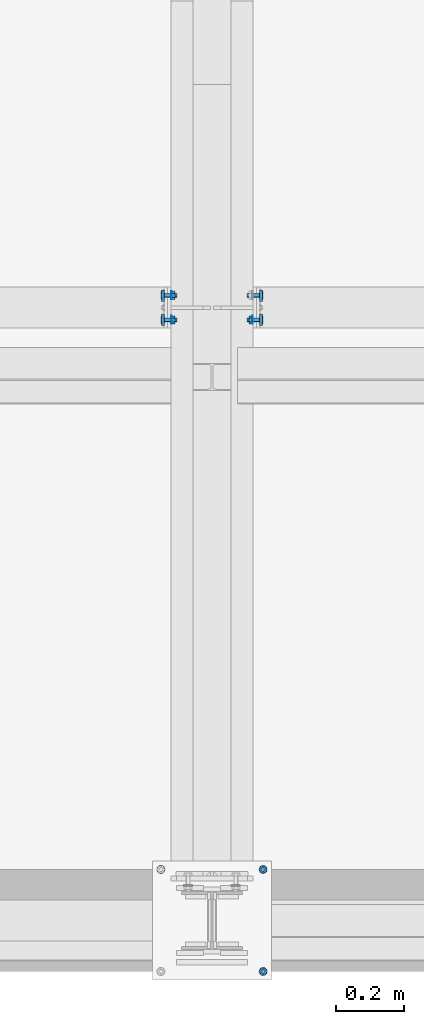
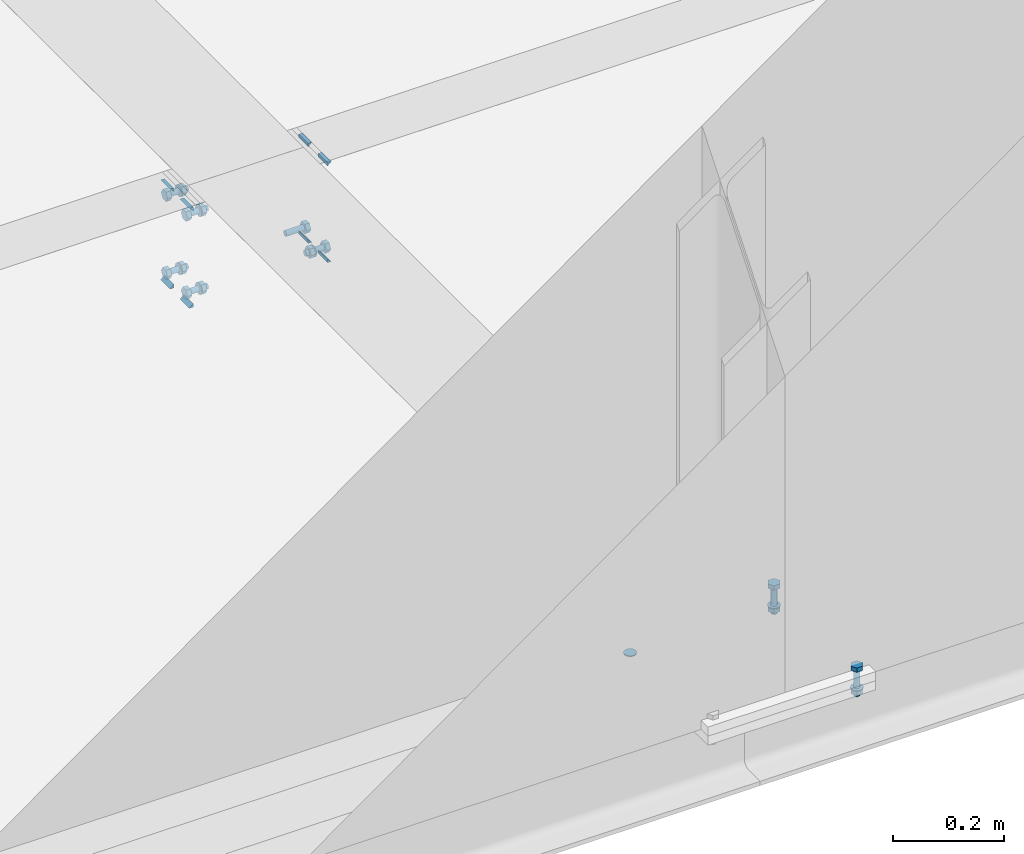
# One storey, part 37 of 66: 31 mechanical fasteners, 16 fasteners.
"""IFC4 building model written with IfcOpenShell, lengths in metres."""

from ifc_helpers import new_model, si_unit, frame, origin_with_axes, place, context, project, spatial, polyline, outline, extrude, type_object, element, save


model = new_model("IFC4")

# Units and contexts
model_context = context("Model", 3, precision=1e-05, world=origin_with_axes())
ifc_project = project(units=[si_unit("LENGTHUNIT", "METRE"), si_unit("AREAUNIT", "SQUARE_METRE"), si_unit("VOLUMEUNIT", "CUBIC_METRE"), si_unit("MASSUNIT", "GRAM", prefix="KILO"), si_unit("TIMEUNIT", "SECOND"), si_unit("PLANEANGLEUNIT", "RADIAN"), si_unit("SOLIDANGLEUNIT", "STERADIAN"), si_unit("THERMODYNAMICTEMPERATUREUNIT", "DEGREE_CELSIUS")], contexts=[model_context])

# Site, building, storey
placement_1 = place(None, origin_with_axes())
site = spatial("IfcSite", under=ifc_project, at=placement_1, Name="Italia", CompositionType="ELEMENT")
building = spatial("IfcBuilding", under=site, at=placement_1, Name="Uffici", CompositionType="ELEMENT")
storey_placement = place(None, frame((0.0, 0.0, 3.299999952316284), z_axis=(0.0, 0.0, 1.0), x_axis=(1.0, 0.0, 0.0)))
storey = spatial("IfcBuildingStorey", under=building, at=storey_placement, Name="Storey 1", CompositionType="ELEMENT", Elevation=3.299999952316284)

# Fasteners
fastener_type_1 = type_object("IfcFastenerType", Name="Collegamento -003_-002", PredefinedType="WELD")
placement_2 = place(placement_1, origin_with_axes())
fastener_1_placement = place(placement_2, origin_with_axes())
element("IfcFastener", 1, at=fastener_1_placement, inside=storey, type_object=fastener_type_1, Name="Collegamento -003_-002", context=model_context, shape_type="SweptSolid", body=[
    extrude(outline(polyline([(0.0, 0.0), (-0.00817347, 0.00792813), (0.0, 0.00792813), (0.0, 0.0)])), frame((6.61505, 1.77862, 3.28232), z_axis=(0.0, -1.0, 0.0), x_axis=(1.0, 0.0, 0.0)), (0.0, 0.0, 1.0), 0.0339999),
])
fastener_type_2 = type_object("IfcFastenerType", Name="Collegamento -003_-002", PredefinedType="WELD")
fastener_2_placement = place(placement_2, origin_with_axes())
element("IfcFastener", 2, at=fastener_2_placement, inside=storey, type_object=fastener_type_2, Name="Collegamento -003_-002", context=model_context, shape_type="SweptSolid", body=[
    extrude(outline(polyline([(0.0, 0.0), (0.00817347, -0.00792813), (0.0, -0.00792813), (0.0, 0.0)])), frame((6.61505, 1.74462, 3.07768), z_axis=(0.0, 1.0, 0.0), x_axis=(-1.0, 0.0, 0.0)), (0.0, 0.0, 1.0), 0.0339999),
])
fastener_type_3 = type_object("IfcFastenerType", Name="Collegamento -003_-002", PredefinedType="WELD")
fastener_3_placement = place(placement_2, origin_with_axes())
element("IfcFastener", 3, at=fastener_3_placement, inside=storey, type_object=fastener_type_3, Name="Collegamento -003_-002", context=model_context, shape_type="SweptSolid", body=[
    extrude(outline(polyline([(0.0, 0.0), (0.00817347, -0.00792813), (0.0, -0.00792813), (0.0, 0.0)])), frame((6.61505, 1.81472, 3.07768), z_axis=(0.0, 1.0, 0.0), x_axis=(-1.0, 0.0, 0.0)), (0.0, 0.0, 1.0), 0.0339999),
])
fastener_type_4 = type_object("IfcFastenerType", Name="Collegamento -003_-002", PredefinedType="WELD")
fastener_4_placement = place(placement_2, origin_with_axes())
element("IfcFastener", 4, at=fastener_4_placement, inside=storey, type_object=fastener_type_4, Name="Collegamento -003_-002", context=model_context, shape_type="SweptSolid", body=[
    extrude(outline(polyline([(0.0, 0.0), (-0.00817347, 0.00792813), (0.0, 0.00792813), (0.0, 0.0)])), frame((6.61505, 1.84872, 3.28232), z_axis=(0.0, -1.0, 0.0), x_axis=(1.0, 0.0, 0.0)), (0.0, 0.0, 1.0), 0.0339999),
])
fastener_type_5 = type_object("IfcFastenerType", Name="Collegamento -003_-002", PredefinedType="WELD")
fastener_5_placement = place(placement_2, origin_with_axes())
element("IfcFastener", 5, at=fastener_5_placement, inside=storey, type_object=fastener_type_5, Name="Collegamento -003_-002", context=model_context, shape_type="SweptSolid", body=[
    extrude(outline(polyline([(0.0, 0.0), (-0.00817347, 0.00792813), (0.0, 0.00792813), (0.0, 0.0)])), frame((6.61505, 1.77862, 3.28232), z_axis=(0.0, -1.0, 0.0), x_axis=(1.0, 0.0, 0.0)), (0.0, 0.0, 1.0), 0.0339999),
])
fastener_type_6 = type_object("IfcFastenerType", Name="Collegamento -003_-002", PredefinedType="WELD")
fastener_6_placement = place(placement_2, origin_with_axes())
element("IfcFastener", 6, at=fastener_6_placement, inside=storey, type_object=fastener_type_6, Name="Collegamento -003_-002", context=model_context, shape_type="SweptSolid", body=[
    extrude(outline(polyline([(0.0, 0.0), (0.00817347, -0.00792813), (0.0, -0.00792813), (0.0, 0.0)])), frame((6.61505, 1.74462, 3.07768), z_axis=(0.0, 1.0, 0.0), x_axis=(-1.0, 0.0, 0.0)), (0.0, 0.0, 1.0), 0.0339999),
])
fastener_type_7 = type_object("IfcFastenerType", Name="Collegamento -003_-002", PredefinedType="WELD")
fastener_7_placement = place(placement_2, origin_with_axes())
element("IfcFastener", 7, at=fastener_7_placement, inside=storey, type_object=fastener_type_7, Name="Collegamento -003_-002", context=model_context, shape_type="SweptSolid", body=[
    extrude(outline(polyline([(0.0, 0.0), (0.00817347, -0.00792813), (0.0, -0.00792813), (0.0, 0.0)])), frame((6.61505, 1.81472, 3.07768), z_axis=(0.0, 1.0, 0.0), x_axis=(-1.0, 0.0, 0.0)), (0.0, 0.0, 1.0), 0.0339999),
])
fastener_type_8 = type_object("IfcFastenerType", Name="Collegamento -003_-002", PredefinedType="WELD")
fastener_8_placement = place(placement_2, origin_with_axes())
element("IfcFastener", 8, at=fastener_8_placement, inside=storey, type_object=fastener_type_8, Name="Collegamento -003_-002", context=model_context, shape_type="SweptSolid", body=[
    extrude(outline(polyline([(0.0, 0.0), (-0.00817347, 0.00792813), (0.0, 0.00792813), (0.0, 0.0)])), frame((6.61505, 1.84872, 3.28232), z_axis=(0.0, -1.0, 0.0), x_axis=(1.0, 0.0, 0.0)), (0.0, 0.0, 1.0), 0.0339999),
])

# Mechanical fasteners
mechanical_fastener_type_1 = type_object("IfcMechanicalFastenerType", Name="Collegamento -003_-002", PredefinedType="BOLT")
mechanical_fastener_1_placement = place(placement_2, origin_with_axes())
element("IfcMechanicalFastener", 9, at=mechanical_fastener_1_placement, inside=storey, type_object=mechanical_fastener_type_1, Name="Collegamento -003_-002", NominalDiameter=0.0119999, context=model_context, shape_type="SweptSolid", body=[
    extrude(outline(polyline([(0.0, 0.0), (-0.0120001, 0.0), (-0.018, 0.0103924), (-0.0120001, 0.0207846), (0.0, 0.0207846), (0.00599992, 0.0103924), (0.0, 0.0)])), frame((6.615, 1.82667, 3.08361), z_axis=(-1.0, 0.0, 0.0), x_axis=(0.0, -1.0, 0.0)), (0.0, 0.0, 1.0), 0.00960016),
])
mechanical_fastener_type_2 = type_object("IfcMechanicalFastenerType", Name="Collegamento -003_-002", PredefinedType="BOLT")
mechanical_fastener_2_placement = place(placement_2, origin_with_axes())
element("IfcMechanicalFastener", 10, at=mechanical_fastener_2_placement, inside=storey, type_object=mechanical_fastener_type_2, Name="Collegamento -003_-002", NominalDiameter=0.012, context=model_context, shape_type="SweptSolid", body=[
    extrude(outline(polyline([(0.0, 0.0), (-0.000204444, -0.00155282), (-0.000803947, -0.00300002), (-0.00175738, -0.00424266), (-0.00300002, -0.00519609), (-0.0044471, -0.00579548), (-0.00600004, -0.00600004), (-0.00755298, -0.00579548), (-0.00900006, -0.00519609), (-0.0102427, -0.00424266), (-0.0111961, -0.00300002), (-0.0117956, -0.00155282), (-0.0120001, 0.0), (-0.0117956, 0.00155282), (-0.0111961, 0.00300002), (-0.0102427, 0.00424266), (-0.00900006, 0.00519609), (-0.00755298, 0.00579548), (-0.00600004, 0.00600004), (-0.0044471, 0.00579548), (-0.00300002, 0.00519609), (-0.00175738, 0.00424266), (-0.000803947, 0.00300002), (-0.000204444, 0.00155282), (0.0, 0.0)])), frame((6.653, 1.82667, 3.094), z_axis=(-1.0, 0.0, 0.0), x_axis=(0.0, -1.0, 0.0)), (0.0, 0.0, 1.0), 0.0380001),
])
mechanical_fastener_type_3 = type_object("IfcMechanicalFastenerType", Name="Collegamento -003_-002", PredefinedType="BOLT")
mechanical_fastener_3_placement = place(placement_2, origin_with_axes())
element("IfcMechanicalFastener", 11, at=mechanical_fastener_3_placement, inside=storey, type_object=mechanical_fastener_type_3, Name="Collegamento -003_-002", NominalDiameter=0.0119999, context=model_context, shape_type="SweptSolid", body=[
    extrude(outline(polyline([(0.0, 0.0), (-0.0120001, 0.0), (-0.018, 0.0103924), (-0.0120001, 0.0207846), (0.0, 0.0207846), (0.00599992, 0.0103924), (0.0, 0.0)])), frame((6.6466, 1.82667, 3.08361), z_axis=(-1.0, 0.0, 0.0), x_axis=(0.0, -1.0, 0.0)), (0.0, 0.0, 1.0), 0.00960016),
])
mechanical_fastener_type_4 = type_object("IfcMechanicalFastenerType", Name="Collegamento -003_-002", PredefinedType="BOLT")
mechanical_fastener_4_placement = place(placement_2, origin_with_axes())
element("IfcMechanicalFastener", 12, at=mechanical_fastener_4_placement, inside=storey, type_object=mechanical_fastener_type_4, Name="Collegamento -003_-002", NominalDiameter=0.024, context=model_context, shape_type="SweptSolid", body=[
    extrude(outline(polyline([(0.0, 0.0), (-0.000408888, -0.00310588), (-0.00160766, -0.00600004), (-0.00351465, -0.00848532), (-0.00599992, -0.0103922), (-0.00889409, -0.0115912), (-0.012, -0.0120001), (-0.0151058, -0.0115912), (-0.018, -0.0103922), (-0.0204853, -0.00848532), (-0.0223923, -0.00600004), (-0.023591, -0.00310588), (-0.0239999, 0.0), (-0.023591, 0.00310588), (-0.0223923, 0.00600004), (-0.0204853, 0.00848532), (-0.018, 0.0103922), (-0.0151058, 0.0115912), (-0.012, 0.0120001), (-0.00889409, 0.0115912), (-0.00599992, 0.0103922), (-0.00351465, 0.00848532), (-0.00160766, 0.00600004), (-0.000408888, 0.00310588), (0.0, 0.0)])), frame((6.637, 1.82067, 3.094), z_axis=(-1.0, 0.0, 0.0), x_axis=(0.0, -1.0, 0.0)), (0.0, 0.0, 1.0), 0.00199986),
])
mechanical_fastener_type_5 = type_object("IfcMechanicalFastenerType", Name="Collegamento -003_-002", PredefinedType="BOLT")
mechanical_fastener_5_placement = place(placement_2, origin_with_axes())
element("IfcMechanicalFastener", 13, at=mechanical_fastener_5_placement, inside=storey, type_object=mechanical_fastener_type_5, Name="Collegamento -003_-002", NominalDiameter=0.0119999, context=model_context, shape_type="SweptSolid", body=[
    extrude(outline(polyline([(0.0, 0.0), (-0.0120001, 0.0), (-0.018, 0.0103924), (-0.0120001, 0.0207846), (0.0, 0.0207846), (0.00599992, 0.0103924), (0.0, 0.0)])), frame((6.615, 1.75467, 3.08361), z_axis=(-1.0, 0.0, 0.0), x_axis=(0.0, -1.0, 0.0)), (0.0, 0.0, 1.0), 0.00960016),
])
mechanical_fastener_type_6 = type_object("IfcMechanicalFastenerType", Name="Collegamento -003_-002", PredefinedType="BOLT")
mechanical_fastener_6_placement = place(placement_2, origin_with_axes())
element("IfcMechanicalFastener", 14, at=mechanical_fastener_6_placement, inside=storey, type_object=mechanical_fastener_type_6, Name="Collegamento -003_-002", NominalDiameter=0.012, context=model_context, shape_type="SweptSolid", body=[
    extrude(outline(polyline([(0.0, 0.0), (-0.000204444, -0.00155282), (-0.000803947, -0.00300002), (-0.00175738, -0.00424266), (-0.00300002, -0.00519609), (-0.0044471, -0.00579548), (-0.00600004, -0.00600004), (-0.00755298, -0.00579548), (-0.00900006, -0.00519609), (-0.0102427, -0.00424266), (-0.0111961, -0.00300002), (-0.0117956, -0.00155282), (-0.0120001, 0.0), (-0.0117956, 0.00155282), (-0.0111961, 0.00300002), (-0.0102427, 0.00424266), (-0.00900006, 0.00519609), (-0.00755298, 0.00579548), (-0.00600004, 0.00600004), (-0.0044471, 0.00579548), (-0.00300002, 0.00519609), (-0.00175738, 0.00424266), (-0.000803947, 0.00300002), (-0.000204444, 0.00155282), (0.0, 0.0)])), frame((6.653, 1.75467, 3.094), z_axis=(-1.0, 0.0, 0.0), x_axis=(0.0, -1.0, 0.0)), (0.0, 0.0, 1.0), 0.0380001),
])
mechanical_fastener_type_7 = type_object("IfcMechanicalFastenerType", Name="Collegamento -003_-002", PredefinedType="BOLT")
mechanical_fastener_7_placement = place(placement_2, origin_with_axes())
element("IfcMechanicalFastener", 15, at=mechanical_fastener_7_placement, inside=storey, type_object=mechanical_fastener_type_7, Name="Collegamento -003_-002", NominalDiameter=0.0119999, context=model_context, shape_type="SweptSolid", body=[
    extrude(outline(polyline([(0.0, 0.0), (-0.0120001, 0.0), (-0.018, 0.0103924), (-0.0120001, 0.0207846), (0.0, 0.0207846), (0.00599992, 0.0103924), (0.0, 0.0)])), frame((6.6466, 1.75467, 3.08361), z_axis=(-1.0, 0.0, 0.0), x_axis=(0.0, -1.0, 0.0)), (0.0, 0.0, 1.0), 0.00960016),
])
mechanical_fastener_type_8 = type_object("IfcMechanicalFastenerType", Name="Collegamento -003_-002", PredefinedType="BOLT")
mechanical_fastener_8_placement = place(placement_2, origin_with_axes())
element("IfcMechanicalFastener", 16, at=mechanical_fastener_8_placement, inside=storey, type_object=mechanical_fastener_type_8, Name="Collegamento -003_-002", NominalDiameter=0.024, context=model_context, shape_type="SweptSolid", body=[
    extrude(outline(polyline([(0.0, 0.0), (-0.000408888, -0.00310588), (-0.00160766, -0.00600004), (-0.00351465, -0.00848532), (-0.00599992, -0.0103922), (-0.00889409, -0.0115912), (-0.012, -0.0120001), (-0.0151058, -0.0115912), (-0.018, -0.0103922), (-0.0204853, -0.00848532), (-0.0223923, -0.00600004), (-0.023591, -0.00310588), (-0.0239999, 0.0), (-0.023591, 0.00310588), (-0.0223923, 0.00600004), (-0.0204853, 0.00848532), (-0.018, 0.0103922), (-0.0151058, 0.0115912), (-0.012, 0.0120001), (-0.00889409, 0.0115912), (-0.00599992, 0.0103922), (-0.00351465, 0.00848532), (-0.00160766, 0.00600004), (-0.000408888, 0.00310588), (0.0, 0.0)])), frame((6.637, 1.74867, 3.094), z_axis=(-1.0, 0.0, 0.0), x_axis=(0.0, -1.0, 0.0)), (0.0, 0.0, 1.0), 0.00199986),
])
mechanical_fastener_type_9 = type_object("IfcMechanicalFastenerType", Name="Collegamento -003_-002", PredefinedType="BOLT")
mechanical_fastener_9_placement = place(placement_2, origin_with_axes())
element("IfcMechanicalFastener", 17, at=mechanical_fastener_9_placement, inside=storey, type_object=mechanical_fastener_type_9, Name="Collegamento -003_-002", NominalDiameter=0.0119999, context=model_context, shape_type="SweptSolid", body=[
    extrude(outline(polyline([(0.0, 0.0), (-0.0120001, 0.0), (-0.018, 0.0103922), (-0.0120001, 0.0207846), (0.0, 0.0207846), (0.00599992, 0.0103922), (0.0, 0.0)])), frame((6.615, 1.82667, 3.25561), z_axis=(-1.0, 0.0, 0.0), x_axis=(0.0, -1.0, 0.0)), (0.0, 0.0, 1.0), 0.00960016),
])
mechanical_fastener_type_10 = type_object("IfcMechanicalFastenerType", Name="Collegamento -003_-002", PredefinedType="BOLT")
mechanical_fastener_10_placement = place(placement_2, origin_with_axes())
element("IfcMechanicalFastener", 18, at=mechanical_fastener_10_placement, inside=storey, type_object=mechanical_fastener_type_10, Name="Collegamento -003_-002", NominalDiameter=0.012, context=model_context, shape_type="SweptSolid", body=[
    extrude(outline(polyline([(0.0, 0.0), (-0.000204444, -0.00155282), (-0.000803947, -0.00300002), (-0.00175738, -0.00424266), (-0.00300002, -0.00519609), (-0.0044471, -0.00579548), (-0.00600004, -0.00600004), (-0.00755298, -0.00579548), (-0.00900006, -0.00519609), (-0.0102427, -0.00424266), (-0.0111961, -0.00300002), (-0.0117956, -0.00155282), (-0.0120001, 0.0), (-0.0117956, 0.00155282), (-0.0111961, 0.00300002), (-0.0102427, 0.00424266), (-0.00900006, 0.00519609), (-0.00755298, 0.00579548), (-0.00600004, 0.00600004), (-0.0044471, 0.00579548), (-0.00300002, 0.00519609), (-0.00175738, 0.00424266), (-0.000803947, 0.00300002), (-0.000204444, 0.00155282), (0.0, 0.0)])), frame((6.653, 1.82667, 3.266), z_axis=(-1.0, 0.0, 0.0), x_axis=(0.0, -1.0, 0.0)), (0.0, 0.0, 1.0), 0.0380001),
])
mechanical_fastener_type_11 = type_object("IfcMechanicalFastenerType", Name="Collegamento -003_-002", PredefinedType="BOLT")
mechanical_fastener_11_placement = place(placement_2, origin_with_axes())
element("IfcMechanicalFastener", 19, at=mechanical_fastener_11_placement, inside=storey, type_object=mechanical_fastener_type_11, Name="Collegamento -003_-002", NominalDiameter=0.0119999, context=model_context, shape_type="SweptSolid", body=[
    extrude(outline(polyline([(0.0, 0.0), (-0.0120001, 0.0), (-0.018, 0.0103922), (-0.0120001, 0.0207846), (0.0, 0.0207846), (0.00599992, 0.0103922), (0.0, 0.0)])), frame((6.6466, 1.82667, 3.25561), z_axis=(-1.0, 0.0, 0.0), x_axis=(0.0, -1.0, 0.0)), (0.0, 0.0, 1.0), 0.00960016),
])
mechanical_fastener_type_12 = type_object("IfcMechanicalFastenerType", Name="Collegamento -003_-002", PredefinedType="BOLT")
mechanical_fastener_12_placement = place(placement_2, origin_with_axes())
element("IfcMechanicalFastener", 20, at=mechanical_fastener_12_placement, inside=storey, type_object=mechanical_fastener_type_12, Name="Collegamento -003_-002", NominalDiameter=0.024, context=model_context, shape_type="SweptSolid", body=[
    extrude(outline(polyline([(0.0, 0.0), (-0.000408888, -0.00310588), (-0.00160766, -0.00600004), (-0.00351465, -0.00848532), (-0.00599992, -0.0103922), (-0.00889409, -0.0115912), (-0.012, -0.0120001), (-0.0151058, -0.0115912), (-0.018, -0.0103922), (-0.0204853, -0.00848532), (-0.0223923, -0.00600004), (-0.023591, -0.00310588), (-0.0239999, 0.0), (-0.023591, 0.00310588), (-0.0223923, 0.00600004), (-0.0204853, 0.00848532), (-0.018, 0.0103922), (-0.0151058, 0.0115912), (-0.012, 0.0120001), (-0.00889409, 0.0115912), (-0.00599992, 0.0103922), (-0.00351465, 0.00848532), (-0.00160766, 0.00600004), (-0.000408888, 0.00310588), (0.0, 0.0)])), frame((6.637, 1.82067, 3.266), z_axis=(-1.0, 0.0, 0.0), x_axis=(0.0, -1.0, 0.0)), (0.0, 0.0, 1.0), 0.00199986),
])
mechanical_fastener_type_13 = type_object("IfcMechanicalFastenerType", Name="Collegamento -003_-002", PredefinedType="BOLT")
mechanical_fastener_13_placement = place(placement_2, origin_with_axes())
element("IfcMechanicalFastener", 21, at=mechanical_fastener_13_placement, inside=storey, type_object=mechanical_fastener_type_13, Name="Collegamento -003_-002", NominalDiameter=0.0119999, context=model_context, shape_type="SweptSolid", body=[
    extrude(outline(polyline([(0.0, 0.0), (-0.0120001, 0.0), (-0.018, 0.0103922), (-0.0120001, 0.0207846), (0.0, 0.0207846), (0.00599992, 0.0103922), (0.0, 0.0)])), frame((6.615, 1.75467, 3.25561), z_axis=(-1.0, 0.0, 0.0), x_axis=(0.0, -1.0, 0.0)), (0.0, 0.0, 1.0), 0.00960016),
])
mechanical_fastener_type_14 = type_object("IfcMechanicalFastenerType", Name="Collegamento -003_-002", PredefinedType="BOLT")
mechanical_fastener_14_placement = place(placement_2, origin_with_axes())
element("IfcMechanicalFastener", 22, at=mechanical_fastener_14_placement, inside=storey, type_object=mechanical_fastener_type_14, Name="Collegamento -003_-002", NominalDiameter=0.012, context=model_context, shape_type="SweptSolid", body=[
    extrude(outline(polyline([(0.0, 0.0), (-0.000204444, -0.00155282), (-0.000803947, -0.00300002), (-0.00175738, -0.00424266), (-0.00300002, -0.00519609), (-0.0044471, -0.00579548), (-0.00600004, -0.00600004), (-0.00755298, -0.00579548), (-0.00900006, -0.00519609), (-0.0102427, -0.00424266), (-0.0111961, -0.00300002), (-0.0117956, -0.00155282), (-0.0120001, 0.0), (-0.0117956, 0.00155282), (-0.0111961, 0.00300002), (-0.0102427, 0.00424266), (-0.00900006, 0.00519609), (-0.00755298, 0.00579548), (-0.00600004, 0.00600004), (-0.0044471, 0.00579548), (-0.00300002, 0.00519609), (-0.00175738, 0.00424266), (-0.000803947, 0.00300002), (-0.000204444, 0.00155282), (0.0, 0.0)])), frame((6.653, 1.75467, 3.266), z_axis=(-1.0, 0.0, 0.0), x_axis=(0.0, -1.0, 0.0)), (0.0, 0.0, 1.0), 0.0380001),
])
mechanical_fastener_type_15 = type_object("IfcMechanicalFastenerType", Name="Collegamento -003_-002", PredefinedType="BOLT")
mechanical_fastener_15_placement = place(placement_2, origin_with_axes())
element("IfcMechanicalFastener", 23, at=mechanical_fastener_15_placement, inside=storey, type_object=mechanical_fastener_type_15, Name="Collegamento -003_-002", NominalDiameter=0.0119999, context=model_context, shape_type="SweptSolid", body=[
    extrude(outline(polyline([(0.0, 0.0), (-0.0120001, 0.0), (-0.018, 0.0103922), (-0.0120001, 0.0207846), (0.0, 0.0207846), (0.00599992, 0.0103922), (0.0, 0.0)])), frame((6.6466, 1.75467, 3.25561), z_axis=(-1.0, 0.0, 0.0), x_axis=(0.0, -1.0, 0.0)), (0.0, 0.0, 1.0), 0.00960016),
])
mechanical_fastener_type_16 = type_object("IfcMechanicalFastenerType", Name="Collegamento -003_-002", PredefinedType="BOLT")
mechanical_fastener_16_placement = place(placement_2, origin_with_axes())
element("IfcMechanicalFastener", 24, at=mechanical_fastener_16_placement, inside=storey, type_object=mechanical_fastener_type_16, Name="Collegamento -003_-002", NominalDiameter=0.024, context=model_context, shape_type="SweptSolid", body=[
    extrude(outline(polyline([(0.0, 0.0), (-0.000408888, -0.00310588), (-0.00160766, -0.00600004), (-0.00351465, -0.00848532), (-0.00599992, -0.0103922), (-0.00889409, -0.0115912), (-0.012, -0.0120001), (-0.0151058, -0.0115912), (-0.018, -0.0103922), (-0.0204853, -0.00848532), (-0.0223923, -0.00600004), (-0.023591, -0.00310588), (-0.0239999, 0.0), (-0.023591, 0.00310588), (-0.0223923, 0.00600004), (-0.0204853, 0.00848532), (-0.018, 0.0103922), (-0.0151058, 0.0115912), (-0.012, 0.0120001), (-0.00889409, 0.0115912), (-0.00599992, 0.0103922), (-0.00351465, 0.00848532), (-0.00160766, 0.00600004), (-0.000408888, 0.00310588), (0.0, 0.0)])), frame((6.637, 1.74867, 3.266), z_axis=(-1.0, 0.0, 0.0), x_axis=(0.0, -1.0, 0.0)), (0.0, 0.0, 1.0), 0.00199986),
])

# Fasteners
fastener_type_9 = type_object("IfcFastenerType", Name="Collegamento -003_-004", PredefinedType="WELD")
fastener_9_placement = place(placement_2, origin_with_axes())
element("IfcFastener", 25, at=fastener_9_placement, inside=storey, type_object=fastener_type_9, Name="Collegamento -003_-004", context=model_context, shape_type="SweptSolid", body=[
    extrude(outline(polyline([(0.0, 0.0), (-0.00817347, 0.00792813), (0.0, 0.00792813), (0.0, 0.0)])), frame((6.89495, 1.74462, 3.28232), z_axis=(0.0, 1.0, 0.0), x_axis=(-1.0, 0.0, 0.0)), (0.0, 0.0, 1.0), 0.0339999),
])
fastener_type_10 = type_object("IfcFastenerType", Name="Collegamento -003_-004", PredefinedType="WELD")
fastener_10_placement = place(placement_2, origin_with_axes())
element("IfcFastener", 26, at=fastener_10_placement, inside=storey, type_object=fastener_type_10, Name="Collegamento -003_-004", context=model_context, shape_type="SweptSolid", body=[
    extrude(outline(polyline([(0.0, 0.0), (0.00817347, -0.00792813), (0.0, -0.00792813), (0.0, 0.0)])), frame((6.89495, 1.77862, 3.07768), z_axis=(0.0, -1.0, 0.0), x_axis=(1.0, 0.0, 0.0)), (0.0, 0.0, 1.0), 0.0339999),
])
fastener_type_11 = type_object("IfcFastenerType", Name="Collegamento -003_-004", PredefinedType="WELD")
fastener_11_placement = place(placement_2, origin_with_axes())
element("IfcFastener", 27, at=fastener_11_placement, inside=storey, type_object=fastener_type_11, Name="Collegamento -003_-004", context=model_context, shape_type="SweptSolid", body=[
    extrude(outline(polyline([(0.0, 0.0), (0.00817347, -0.00792813), (0.0, -0.00792813), (0.0, 0.0)])), frame((6.89495, 1.84872, 3.07768), z_axis=(0.0, -1.0, 0.0), x_axis=(1.0, 0.0, 0.0)), (0.0, 0.0, 1.0), 0.0339999),
])
fastener_type_12 = type_object("IfcFastenerType", Name="Collegamento -003_-004", PredefinedType="WELD")
fastener_12_placement = place(placement_2, origin_with_axes())
element("IfcFastener", 28, at=fastener_12_placement, inside=storey, type_object=fastener_type_12, Name="Collegamento -003_-004", context=model_context, shape_type="SweptSolid", body=[
    extrude(outline(polyline([(0.0, 0.0), (-0.00817347, 0.00792813), (0.0, 0.00792813), (0.0, 0.0)])), frame((6.89495, 1.81472, 3.28232), z_axis=(0.0, 1.0, 0.0), x_axis=(-1.0, 0.0, 0.0)), (0.0, 0.0, 1.0), 0.0339999),
])
fastener_type_13 = type_object("IfcFastenerType", Name="Collegamento -003_-004", PredefinedType="WELD")
fastener_13_placement = place(placement_2, origin_with_axes())
element("IfcFastener", 29, at=fastener_13_placement, inside=storey, type_object=fastener_type_13, Name="Collegamento -003_-004", context=model_context, shape_type="SweptSolid", body=[
    extrude(outline(polyline([(0.0, 0.0), (-0.00817347, 0.00792813), (0.0, 0.00792813), (0.0, 0.0)])), frame((6.89495, 1.74462, 3.28232), z_axis=(0.0, 1.0, 0.0), x_axis=(-1.0, 0.0, 0.0)), (0.0, 0.0, 1.0), 0.0339999),
])
fastener_type_14 = type_object("IfcFastenerType", Name="Collegamento -003_-004", PredefinedType="WELD")
fastener_14_placement = place(placement_2, origin_with_axes())
element("IfcFastener", 30, at=fastener_14_placement, inside=storey, type_object=fastener_type_14, Name="Collegamento -003_-004", context=model_context, shape_type="SweptSolid", body=[
    extrude(outline(polyline([(0.0, 0.0), (0.00817347, -0.00792813), (0.0, -0.00792813), (0.0, 0.0)])), frame((6.89495, 1.77862, 3.07768), z_axis=(0.0, -1.0, 0.0), x_axis=(1.0, 0.0, 0.0)), (0.0, 0.0, 1.0), 0.0339999),
])
fastener_type_15 = type_object("IfcFastenerType", Name="Collegamento -003_-004", PredefinedType="WELD")
fastener_15_placement = place(placement_2, origin_with_axes())
element("IfcFastener", 31, at=fastener_15_placement, inside=storey, type_object=fastener_type_15, Name="Collegamento -003_-004", context=model_context, shape_type="SweptSolid", body=[
    extrude(outline(polyline([(0.0, 0.0), (0.00817347, -0.00792813), (0.0, -0.00792813), (0.0, 0.0)])), frame((6.89495, 1.84872, 3.07768), z_axis=(0.0, -1.0, 0.0), x_axis=(1.0, 0.0, 0.0)), (0.0, 0.0, 1.0), 0.0339999),
])
fastener_type_16 = type_object("IfcFastenerType", Name="Collegamento -003_-004", PredefinedType="WELD")
fastener_16_placement = place(placement_2, origin_with_axes())
element("IfcFastener", 32, at=fastener_16_placement, inside=storey, type_object=fastener_type_16, Name="Collegamento -003_-004", context=model_context, shape_type="SweptSolid", body=[
    extrude(outline(polyline([(0.0, 0.0), (-0.00817347, 0.00792813), (0.0, 0.00792813), (0.0, 0.0)])), frame((6.89495, 1.81472, 3.28232), z_axis=(0.0, 1.0, 0.0), x_axis=(-1.0, 0.0, 0.0)), (0.0, 0.0, 1.0), 0.0339999),
])

# Mechanical fasteners
mechanical_fastener_type_17 = type_object("IfcMechanicalFastenerType", Name="Collegamento -003_-004", PredefinedType="BOLT")
mechanical_fastener_17_placement = place(placement_2, origin_with_axes())
element("IfcMechanicalFastener", 33, at=mechanical_fastener_17_placement, inside=storey, type_object=mechanical_fastener_type_17, Name="Collegamento -003_-004", NominalDiameter=0.0119999, context=model_context, shape_type="SweptSolid", body=[
    extrude(outline(polyline([(0.0, 0.0), (-0.0120001, 0.0), (-0.018, 0.0103924), (-0.0120001, 0.0207846), (0.0, 0.0207846), (0.00599992, 0.0103924), (0.0, 0.0)])), frame((6.895, 1.76667, 3.08361), z_axis=(1.0, 0.0, 0.0), x_axis=(0.0, 1.0, 0.0)), (0.0, 0.0, 1.0), 0.00960016),
])
mechanical_fastener_type_18 = type_object("IfcMechanicalFastenerType", Name="Collegamento -003_-004", PredefinedType="BOLT")
mechanical_fastener_18_placement = place(placement_2, origin_with_axes())
element("IfcMechanicalFastener", 34, at=mechanical_fastener_18_placement, inside=storey, type_object=mechanical_fastener_type_18, Name="Collegamento -003_-004", NominalDiameter=0.012, context=model_context, shape_type="SweptSolid", body=[
    extrude(outline(polyline([(0.0, 0.0), (-0.000204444, -0.00155282), (-0.000803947, -0.00300002), (-0.00175738, -0.00424266), (-0.00300002, -0.00519609), (-0.0044471, -0.00579548), (-0.00600004, -0.00600004), (-0.00755298, -0.00579548), (-0.00900006, -0.00519609), (-0.0102427, -0.00424266), (-0.0111961, -0.00300002), (-0.0117956, -0.00155282), (-0.0120001, 0.0), (-0.0117956, 0.00155282), (-0.0111961, 0.00300002), (-0.0102427, 0.00424266), (-0.00900006, 0.00519609), (-0.00755298, 0.00579548), (-0.00600004, 0.00600004), (-0.0044471, 0.00579548), (-0.00300002, 0.00519609), (-0.00175738, 0.00424266), (-0.000803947, 0.00300002), (-0.000204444, 0.00155282), (0.0, 0.0)])), frame((6.857, 1.76667, 3.094), z_axis=(1.0, 0.0, 0.0), x_axis=(0.0, 1.0, 0.0)), (0.0, 0.0, 1.0), 0.0380001),
])
mechanical_fastener_type_19 = type_object("IfcMechanicalFastenerType", Name="Collegamento -003_-004", PredefinedType="BOLT")
mechanical_fastener_19_placement = place(placement_2, origin_with_axes())
element("IfcMechanicalFastener", 35, at=mechanical_fastener_19_placement, inside=storey, type_object=mechanical_fastener_type_19, Name="Collegamento -003_-004", NominalDiameter=0.0119999, context=model_context, shape_type="SweptSolid", body=[
    extrude(outline(polyline([(0.0, 0.0), (-0.0120001, 0.0), (-0.018, 0.0103924), (-0.0120001, 0.0207846), (0.0, 0.0207846), (0.00599992, 0.0103924), (0.0, 0.0)])), frame((6.8634, 1.76667, 3.08361), z_axis=(1.0, 0.0, 0.0), x_axis=(0.0, 1.0, 0.0)), (0.0, 0.0, 1.0), 0.00960016),
])
mechanical_fastener_type_20 = type_object("IfcMechanicalFastenerType", Name="Collegamento -003_-004", PredefinedType="BOLT")
mechanical_fastener_20_placement = place(placement_2, origin_with_axes())
element("IfcMechanicalFastener", 36, at=mechanical_fastener_20_placement, inside=storey, type_object=mechanical_fastener_type_20, Name="Collegamento -003_-004", NominalDiameter=0.024, context=model_context, shape_type="SweptSolid", body=[
    extrude(outline(polyline([(0.0, 0.0), (-0.000408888, -0.00310588), (-0.00160766, -0.00600004), (-0.00351465, -0.00848532), (-0.00599992, -0.0103922), (-0.00889409, -0.0115912), (-0.012, -0.0120001), (-0.0151058, -0.0115912), (-0.018, -0.0103922), (-0.0204853, -0.00848532), (-0.0223923, -0.00600004), (-0.023591, -0.00310588), (-0.0239999, 0.0), (-0.023591, 0.00310588), (-0.0223923, 0.00600004), (-0.0204853, 0.00848532), (-0.018, 0.0103922), (-0.0151058, 0.0115912), (-0.012, 0.0120001), (-0.00889409, 0.0115912), (-0.00599992, 0.0103922), (-0.00351465, 0.00848532), (-0.00160766, 0.00600004), (-0.000408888, 0.00310588), (0.0, 0.0)])), frame((6.873, 1.77267, 3.094), z_axis=(1.0, 0.0, 0.0), x_axis=(0.0, 1.0, 0.0)), (0.0, 0.0, 1.0), 0.00199986),
])
mechanical_fastener_type_21 = type_object("IfcMechanicalFastenerType", Name="Collegamento -003_-004", PredefinedType="BOLT")
mechanical_fastener_21_placement = place(placement_2, origin_with_axes())
element("IfcMechanicalFastener", 37, at=mechanical_fastener_21_placement, inside=storey, type_object=mechanical_fastener_type_21, Name="Collegamento -003_-004", NominalDiameter=0.0119999, context=model_context, shape_type="SweptSolid", body=[
    extrude(outline(polyline([(0.0, 0.0), (-0.0120001, 0.0), (-0.018, 0.0103924), (-0.0120001, 0.0207846), (0.0, 0.0207846), (0.00599992, 0.0103924), (0.0, 0.0)])), frame((6.895, 1.83867, 3.08361), z_axis=(1.0, 0.0, 0.0), x_axis=(0.0, 1.0, 0.0)), (0.0, 0.0, 1.0), 0.00960016),
])
mechanical_fastener_type_22 = type_object("IfcMechanicalFastenerType", Name="Collegamento -003_-004", PredefinedType="BOLT")
mechanical_fastener_22_placement = place(placement_2, origin_with_axes())
element("IfcMechanicalFastener", 38, at=mechanical_fastener_22_placement, inside=storey, type_object=mechanical_fastener_type_22, Name="Collegamento -003_-004", NominalDiameter=0.012, context=model_context, shape_type="SweptSolid", body=[
    extrude(outline(polyline([(0.0, 0.0), (-0.000204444, -0.00155282), (-0.000803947, -0.00300002), (-0.00175738, -0.00424266), (-0.00300002, -0.00519609), (-0.0044471, -0.00579548), (-0.00600004, -0.00600004), (-0.00755298, -0.00579548), (-0.00900006, -0.00519609), (-0.0102427, -0.00424266), (-0.0111961, -0.00300002), (-0.0117956, -0.00155282), (-0.0120001, 0.0), (-0.0117956, 0.00155282), (-0.0111961, 0.00300002), (-0.0102427, 0.00424266), (-0.00900006, 0.00519609), (-0.00755298, 0.00579548), (-0.00600004, 0.00600004), (-0.0044471, 0.00579548), (-0.00300002, 0.00519609), (-0.00175738, 0.00424266), (-0.000803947, 0.00300002), (-0.000204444, 0.00155282), (0.0, 0.0)])), frame((6.857, 1.83867, 3.094), z_axis=(1.0, 0.0, 0.0), x_axis=(0.0, 1.0, 0.0)), (0.0, 0.0, 1.0), 0.0380001),
])
mechanical_fastener_type_23 = type_object("IfcMechanicalFastenerType", Name="Collegamenti 0101_0201 0102_0202 0103_0203 0104_0204 0105_0205", PredefinedType="BOLT")
mechanical_fastener_23_placement = place(placement_2, origin_with_axes())
element("IfcMechanicalFastener", 39, at=mechanical_fastener_23_placement, inside=storey, type_object=mechanical_fastener_type_23, Name="Collegamenti 0101_0201 0102_0202 0103_0203 0104_0204 0105_0205", NominalDiameter=0.012, context=model_context, shape_type="SweptSolid", body=[
    extrude(outline(polyline([(0.0, 0.0), (0.0, 0.0120001), (0.0103923, 0.0180001), (0.0207846, 0.0120001), (0.0207846, 0.0), (0.0103923, -0.00600004), (0.0, 0.0)])), frame((6.911, -0.159892, 3.32), z_axis=(0.0, 0.0, 1.0), x_axis=(0.0, 1.0, 0.0)), (0.0, 0.0, 1.0), 0.00959992),
])
mechanical_fastener_type_24 = type_object("IfcMechanicalFastenerType", Name="Collegamenti 0101_0201 0102_0202 0103_0203 0104_0204 0105_0205", PredefinedType="BOLT")
mechanical_fastener_24_placement = place(placement_2, origin_with_axes())
element("IfcMechanicalFastener", 40, at=mechanical_fastener_24_placement, inside=storey, type_object=mechanical_fastener_type_24, Name="Collegamenti 0101_0201 0102_0202 0103_0203 0104_0204 0105_0205", NominalDiameter=0.012, context=model_context, shape_type="SweptSolid", body=[
    extrude(outline(polyline([(0.0, 0.0), (-0.000204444, -0.00155306), (-0.000803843, -0.00299978), (-0.00175735, -0.00424242), (-0.00299999, -0.00519609), (-0.00444709, -0.00579548), (-0.006, -0.00600004), (-0.00755291, -0.00579548), (-0.009, -0.00519609), (-0.0102426, -0.00424242), (-0.0111962, -0.00299978), (-0.0117956, -0.00155306), (-0.012, 0.0), (-0.0117956, 0.00155306), (-0.0111962, 0.00299978), (-0.0102426, 0.00424242), (-0.009, 0.00519609), (-0.00755291, 0.00579548), (-0.006, 0.00600004), (-0.00444709, 0.00579548), (-0.00299999, 0.00519609), (-0.00175735, 0.00424242), (-0.000803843, 0.00299978), (-0.000204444, 0.00155306), (0.0, 0.0)])), frame((6.905, -0.1435, 3.262), z_axis=(0.0, 0.0, 1.0), x_axis=(0.0, 1.0, 0.0)), (0.0, 0.0, 1.0), 0.0580001),
])
mechanical_fastener_type_25 = type_object("IfcMechanicalFastenerType", Name="Collegamenti 0101_0201 0102_0202 0103_0203 0104_0204 0105_0205", PredefinedType="BOLT")
mechanical_fastener_25_placement = place(placement_2, origin_with_axes())
element("IfcMechanicalFastener", 41, at=mechanical_fastener_25_placement, inside=storey, type_object=mechanical_fastener_type_25, Name="Collegamenti 0101_0201 0102_0202 0103_0203 0104_0204 0105_0205", NominalDiameter=0.012, context=model_context, shape_type="SweptSolid", body=[
    extrude(outline(polyline([(0.0, 0.0), (0.0, 0.0120001), (0.0103923, 0.0180001), (0.0207846, 0.0120001), (0.0207846, 0.0), (0.0103923, -0.00600004), (0.0, 0.0)])), frame((6.911, -0.159892, 3.2684), z_axis=(0.0, 0.0, 1.0), x_axis=(0.0, 1.0, 0.0)), (0.0, 0.0, 1.0), 0.00959992),
])
mechanical_fastener_type_26 = type_object("IfcMechanicalFastenerType", Name="Collegamenti 0101_0201 0102_0202 0103_0203 0104_0204 0105_0205", PredefinedType="BOLT")
mechanical_fastener_26_placement = place(placement_2, origin_with_axes())
element("IfcMechanicalFastener", 42, at=mechanical_fastener_26_placement, inside=storey, type_object=mechanical_fastener_type_26, Name="Collegamenti 0101_0201 0102_0202 0103_0203 0104_0204 0105_0205", NominalDiameter=0.024, context=model_context, shape_type="SweptSolid", body=[
    extrude(outline(polyline([(0.0, 0.0), (-0.000408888, -0.00310564), (-0.00160769, -0.00600004), (-0.00351471, -0.00848532), (-0.006, -0.0103922), (-0.00889416, -0.011591), (-0.012, -0.0120001), (-0.0151058, -0.011591), (-0.018, -0.0103922), (-0.0204853, -0.00848532), (-0.0223923, -0.00600004), (-0.0235911, -0.00310564), (-0.024, 0.0), (-0.0235911, 0.00310564), (-0.0223923, 0.00600004), (-0.0204853, 0.00848532), (-0.018, 0.0103922), (-0.0151058, 0.011591), (-0.012, 0.0120001), (-0.00889416, 0.011591), (-0.006, 0.0103922), (-0.00351471, 0.00848532), (-0.00160769, 0.00600004), (-0.000408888, 0.00310564), (0.0, 0.0)])), frame((6.905, -0.1375, 3.278), z_axis=(0.0, 0.0, 1.0), x_axis=(0.0, 1.0, 0.0)), (0.0, 0.0, 1.0), 0.00200009),
])
mechanical_fastener_type_27 = type_object("IfcMechanicalFastenerType", Name="Collegamenti 0101_0201 0102_0202 0103_0203 0104_0204 0105_0205", PredefinedType="BOLT")
mechanical_fastener_27_placement = place(placement_2, origin_with_axes())
element("IfcMechanicalFastener", 43, at=mechanical_fastener_27_placement, inside=storey, type_object=mechanical_fastener_type_27, Name="Collegamenti 0101_0201 0102_0202 0103_0203 0104_0204 0105_0205", NominalDiameter=0.024, context=model_context, shape_type="SweptSolid", body=[
    extrude(outline(polyline([(0.0, 0.0), (-0.000408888, -0.00310564), (-0.00160769, -0.00600004), (-0.00351471, -0.00848532), (-0.006, -0.0103922), (-0.00889416, -0.011591), (-0.012, -0.0120001), (-0.0151058, -0.011591), (-0.018, -0.0103922), (-0.0204853, -0.00848532), (-0.0223923, -0.00600004), (-0.0235911, -0.00310564), (-0.024, 0.0), (-0.0235911, 0.00310564), (-0.0223923, 0.00600004), (-0.0204853, 0.00848532), (-0.018, 0.0103922), (-0.0151058, 0.011591), (-0.012, 0.0120001), (-0.00889416, 0.011591), (-0.006, 0.0103922), (-0.00351471, 0.00848532), (-0.00160769, 0.00600004), (-0.000408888, 0.00310564), (0.0, 0.0)])), frame((6.605, 0.1615, 3.278), z_axis=(0.0, 0.0, 1.0), x_axis=(0.0, 1.0, 0.0)), (0.0, 0.0, 1.0), 0.00200009),
])
mechanical_fastener_type_28 = type_object("IfcMechanicalFastenerType", Name="Collegamenti 0101_0201 0102_0202 0103_0203 0104_0204 0105_0205", PredefinedType="BOLT")
mechanical_fastener_28_placement = place(placement_2, origin_with_axes())
element("IfcMechanicalFastener", 44, at=mechanical_fastener_28_placement, inside=storey, type_object=mechanical_fastener_type_28, Name="Collegamenti 0101_0201 0102_0202 0103_0203 0104_0204 0105_0205", NominalDiameter=0.012, context=model_context, shape_type="SweptSolid", body=[
    extrude(outline(polyline([(0.0, 0.0), (0.0, 0.0120001), (0.0103923, 0.0180001), (0.0207846, 0.0120001), (0.0207846, 0.0), (0.0103923, -0.00600004), (0.0, 0.0)])), frame((6.911, 0.139108, 3.32), z_axis=(0.0, 0.0, 1.0), x_axis=(0.0, 1.0, 0.0)), (0.0, 0.0, 1.0), 0.00959992),
])
mechanical_fastener_type_29 = type_object("IfcMechanicalFastenerType", Name="Collegamenti 0101_0201 0102_0202 0103_0203 0104_0204 0105_0205", PredefinedType="BOLT")
mechanical_fastener_29_placement = place(placement_2, origin_with_axes())
element("IfcMechanicalFastener", 45, at=mechanical_fastener_29_placement, inside=storey, type_object=mechanical_fastener_type_29, Name="Collegamenti 0101_0201 0102_0202 0103_0203 0104_0204 0105_0205", NominalDiameter=0.012, context=model_context, shape_type="SweptSolid", body=[
    extrude(outline(polyline([(0.0, 0.0), (-0.000204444, -0.00155306), (-0.000803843, -0.00299978), (-0.00175735, -0.00424242), (-0.00299999, -0.00519609), (-0.00444709, -0.00579548), (-0.006, -0.00600004), (-0.00755291, -0.00579548), (-0.009, -0.00519609), (-0.0102426, -0.00424242), (-0.0111962, -0.00299978), (-0.0117956, -0.00155306), (-0.012, 0.0), (-0.0117956, 0.00155306), (-0.0111962, 0.00299978), (-0.0102426, 0.00424242), (-0.009, 0.00519609), (-0.00755291, 0.00579548), (-0.006, 0.00600004), (-0.00444709, 0.00579548), (-0.00299999, 0.00519609), (-0.00175735, 0.00424242), (-0.000803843, 0.00299978), (-0.000204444, 0.00155306), (0.0, 0.0)])), frame((6.905, 0.1555, 3.262), z_axis=(0.0, 0.0, 1.0), x_axis=(0.0, 1.0, 0.0)), (0.0, 0.0, 1.0), 0.0580001),
])
mechanical_fastener_type_30 = type_object("IfcMechanicalFastenerType", Name="Collegamenti 0101_0201 0102_0202 0103_0203 0104_0204 0105_0205", PredefinedType="BOLT")
mechanical_fastener_30_placement = place(placement_2, origin_with_axes())
element("IfcMechanicalFastener", 46, at=mechanical_fastener_30_placement, inside=storey, type_object=mechanical_fastener_type_30, Name="Collegamenti 0101_0201 0102_0202 0103_0203 0104_0204 0105_0205", NominalDiameter=0.012, context=model_context, shape_type="SweptSolid", body=[
    extrude(outline(polyline([(0.0, 0.0), (0.0, 0.0120001), (0.0103923, 0.0180001), (0.0207846, 0.0120001), (0.0207846, 0.0), (0.0103923, -0.00600004), (0.0, 0.0)])), frame((6.911, 0.139108, 3.2684), z_axis=(0.0, 0.0, 1.0), x_axis=(0.0, 1.0, 0.0)), (0.0, 0.0, 1.0), 0.00959992),
])
mechanical_fastener_type_31 = type_object("IfcMechanicalFastenerType", Name="Collegamenti 0101_0201 0102_0202 0103_0203 0104_0204 0105_0205", PredefinedType="BOLT")
mechanical_fastener_31_placement = place(placement_2, origin_with_axes())
element("IfcMechanicalFastener", 47, at=mechanical_fastener_31_placement, inside=storey, type_object=mechanical_fastener_type_31, Name="Collegamenti 0101_0201 0102_0202 0103_0203 0104_0204 0105_0205", NominalDiameter=0.024, context=model_context, shape_type="SweptSolid", body=[
    extrude(outline(polyline([(0.0, 0.0), (-0.000408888, -0.00310564), (-0.00160769, -0.00600004), (-0.00351471, -0.00848532), (-0.006, -0.0103922), (-0.00889416, -0.011591), (-0.012, -0.0120001), (-0.0151058, -0.011591), (-0.018, -0.0103922), (-0.0204853, -0.00848532), (-0.0223923, -0.00600004), (-0.0235911, -0.00310564), (-0.024, 0.0), (-0.0235911, 0.00310564), (-0.0223923, 0.00600004), (-0.0204853, 0.00848532), (-0.018, 0.0103922), (-0.0151058, 0.011591), (-0.012, 0.0120001), (-0.00889416, 0.011591), (-0.006, 0.0103922), (-0.00351471, 0.00848532), (-0.00160769, 0.00600004), (-0.000408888, 0.00310564), (0.0, 0.0)])), frame((6.905, 0.1615, 3.278), z_axis=(0.0, 0.0, 1.0), x_axis=(0.0, 1.0, 0.0)), (0.0, 0.0, 1.0), 0.00200009),
])

save(model, "model.ifc")
